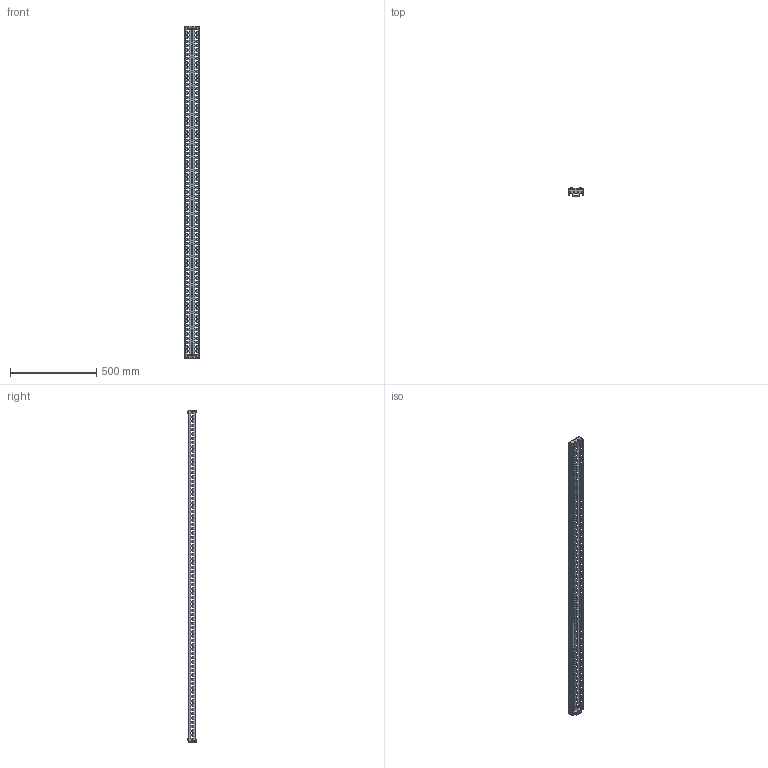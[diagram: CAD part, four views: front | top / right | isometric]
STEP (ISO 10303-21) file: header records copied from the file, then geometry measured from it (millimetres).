
FILE_DESCRIPTION (( 'STEP AP214' ), '1' );
FILE_NAME ('FO-00-STD-200 Ñòîéêà äîïîëíèòåëüíàÿ âåðòèêàëüíàÿ 2000 ìì.STEP', '2025-08-04T12:50:47', ( '' ), ( '' ), 'SwSTEP 2.0', 'SolidWorks 2023', '' );
FILE_SCHEMA (( 'AUTOMOTIVE_DESIGN' ));
Length unit declared in the file: millimetre
Products named in the file (1): FO-00-STD-200 Стойка дополнительная вертикальная 2000 мм
Bounding box: 92 x 49 x 1929 mm (x, y, z)
Volume: 453852.4 mm3; surface area: 631960.2 mm2
Topology: 1 solids, 5 shells, 2444 faces, 7220 edges, 4796 vertices
Faces by surface type: plane 1380, cylinder 1032, cone 16, torus 16
Entity records: 84963 total; most frequent: CARTESIAN_POINT 14461, ORIENTED_EDGE 14440, DIRECTION 14222, EDGE_CURVE 7220, LINE 5108, VECTOR 5108, VERTEX_POINT 4796, AXIS2_PLACEMENT_3D 4557
